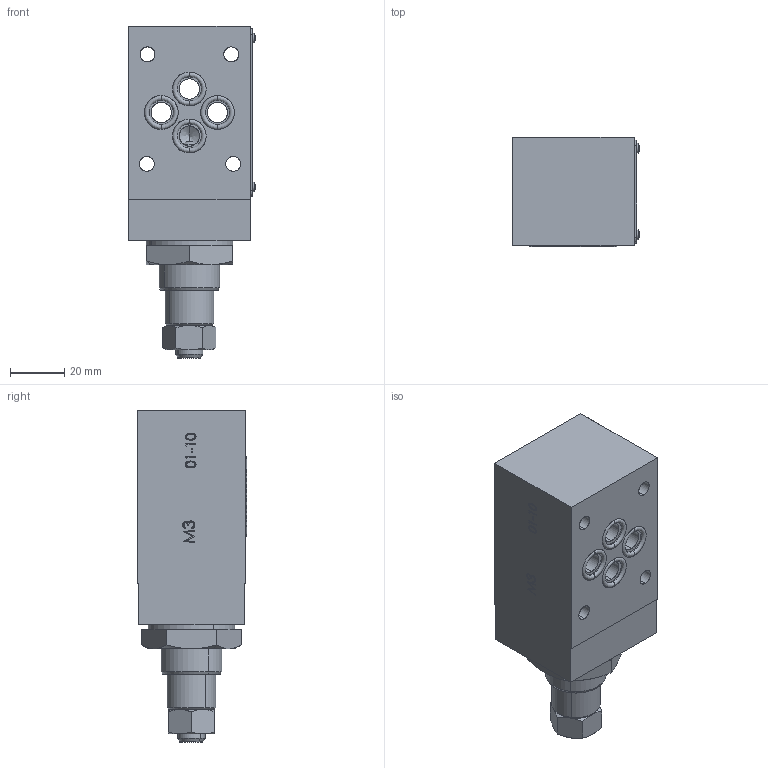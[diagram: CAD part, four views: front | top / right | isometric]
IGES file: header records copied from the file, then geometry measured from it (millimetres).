
Start section: SolidWorks IGES file using analytic representation for surfaces
Global section: file name: C:\Users\user\Desktop\FT358-5-B-03-H.IGS; native system: SolidWorks 2014; preprocessor: SolidWorks 2014; author: user; date: 140618.083612; units: millimetre
Bounding box: 46.96 x 40.38 x 122.8 mm (x, y, z)
Surface area: 49783.3 mm2 (no closed solid volume)
Topology: 0 solids, 0 shells, 1799 faces, 21563 edges, 21549 vertices
Faces by surface type: bspline 1406, revolution 393
